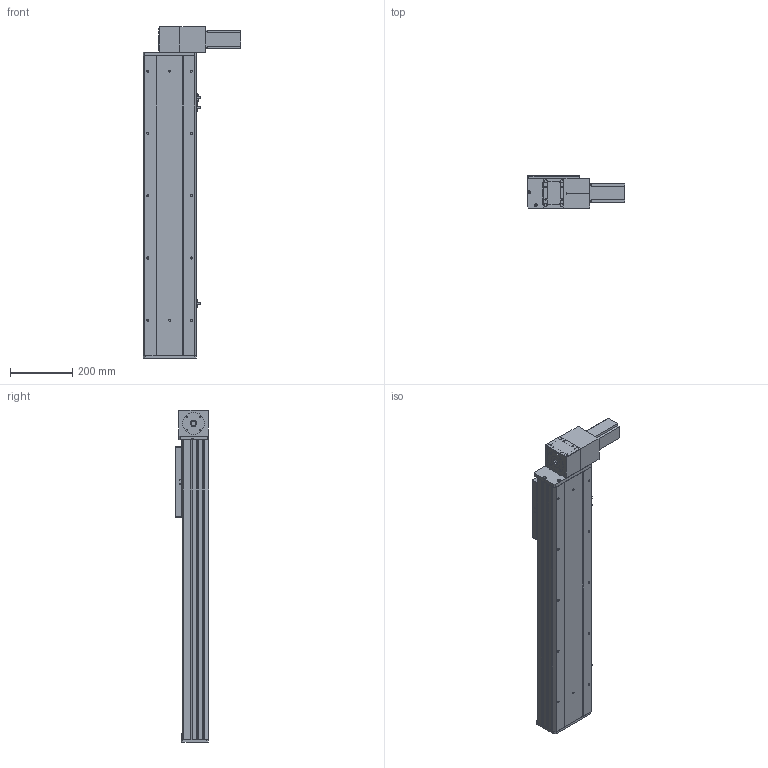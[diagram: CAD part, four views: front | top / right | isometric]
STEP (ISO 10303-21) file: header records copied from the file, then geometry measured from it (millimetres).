
FILE_DESCRIPTION (( 'STEP AP203' ), '1' );
FILE_NAME ('Y170CB-D105-S650-BD-P400W.STEP', '2020-02-20T08:23:53', ( '微软用户' ), ( '微软中国' ), 'SwSTEP 2.0', 'SolidWorks 2017', '' );
FILE_SCHEMA (( 'CONFIG_CONTROL_DESIGN' ));
Length unit declared in the file: millimetre
Products named in the file (16): 0B薊粣ん眊-400W--; 70CB--耜裔; Y170CB-D105-S650-BD-P400W; 70C-雄赽釱-奻-; 0C--雄赽釱俋欶-170; B-源倛裔啣; 70CB-詩湍--; san松下电机400不带刹车----; Y100-135俋离換覜ん--; 70CB-掛极-; Y170CB-陔俋离換覜結え---; --70CB --喘謫眊楊擘啣-; Y1埴倛裔; 70CB-耜裔啣-; 70B喘謫眊----; 70C--詩湍揤踡え-
Assembly tree (19 placements, depth 2):
  Y170CB-D105-S650-BD-P400W
    B-源倛裔啣
    san松下电机400不带刹车----
    70CB-掛极-
    --70CB --喘謫眊楊擘啣-
    70CB-耜裔啣-  x2
    70C--詩湍揤踡え-  x2
    70CB--耜裔
    70C-雄赽釱-奻-
    0C--雄赽釱俋欶-170
    70CB-詩湍--
    Y100-135俋离換覜ん--  x3
    Y170CB-陔俋离換覜結え---
    Y1埴倛裔
    70B喘謫眊----
    0B薊粣ん眊-400W--
Bounding box: 313.5 x 107 x 1066 mm (x, y, z)
Volume: 5449142.7 mm3; surface area: 1813958.1 mm2
Topology: 19 solids, 19 shells, 904 faces, 2378 edges, 1576 vertices
Faces by surface type: cylinder 458, plane 422, cone 24
Entity records: 28135 total; most frequent: CARTESIAN_POINT 5206, DIRECTION 4575, ORIENTED_EDGE 4238, EDGE_CURVE 2119, AXIS2_PLACEMENT_3D 1681, VERTEX_POINT 1406, VECTOR 1213, LINE 1213
